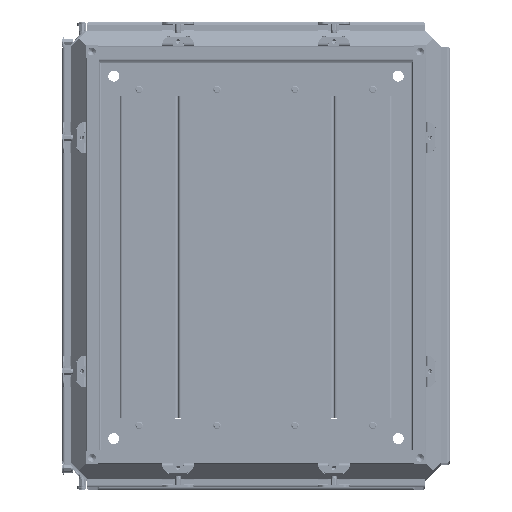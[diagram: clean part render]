
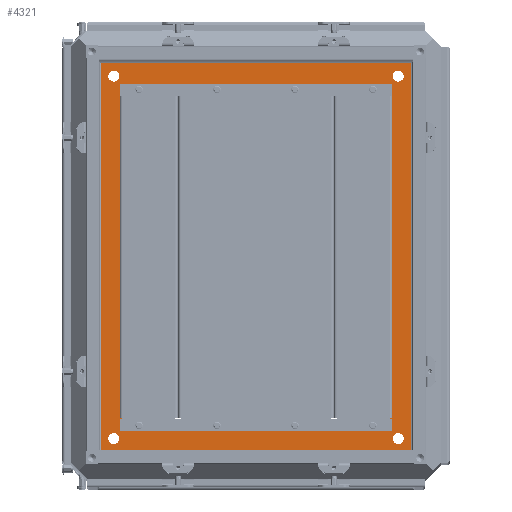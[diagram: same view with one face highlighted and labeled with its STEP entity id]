
A CAD part, top view. The second image highlights one B-rep face of the part: STEP entity #4321.
In plain terms, the highlighted planar face has unit normal (0, 0, 1).
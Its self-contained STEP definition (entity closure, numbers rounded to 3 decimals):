
#4321=ADVANCED_FACE('',(#16725,#16727,#16729,#16731,#16733,#16735),#16737,.F.);
#16725=FACE_BOUND('',#16726,.T.);
#16726=EDGE_LOOP('',(#111707,#111708,#111709,#111710));
#16727=FACE_BOUND('',#16728,.T.);
#16728=EDGE_LOOP('',(#111711,#111712,#111713,#111714));
#16729=FACE_BOUND('',#16730,.T.);
#16730=EDGE_LOOP('',(#111715));
#16731=FACE_BOUND('',#16732,.T.);
#16732=EDGE_LOOP('',(#111716));
#16733=FACE_BOUND('',#16734,.T.);
#16734=EDGE_LOOP('',(#111717));
#16735=FACE_BOUND('',#16736,.T.);
#16736=EDGE_LOOP('',(#111718));
#16737=PLANE('',#16738);
#16738=AXIS2_PLACEMENT_3D('',#16739,#16740,#16741);
#16739=CARTESIAN_POINT('',(0.,0.,-47.5));
#16740=DIRECTION('',(0.,0.,-1.));
#16741=DIRECTION('',(0.,1.,0.));
#111707=ORIENTED_EDGE('',*,*,#169409,.F.);
#111708=ORIENTED_EDGE('',*,*,#169410,.F.);
#111709=ORIENTED_EDGE('',*,*,#169411,.T.);
#111710=ORIENTED_EDGE('',*,*,#169412,.T.);
#111711=ORIENTED_EDGE('',*,*,#169413,.T.);
#111712=ORIENTED_EDGE('',*,*,#169414,.F.);
#111713=ORIENTED_EDGE('',*,*,#169415,.F.);
#111714=ORIENTED_EDGE('',*,*,#169416,.F.);
#111715=ORIENTED_EDGE('',*,*,#169417,.T.);
#111716=ORIENTED_EDGE('',*,*,#169418,.F.);
#111717=ORIENTED_EDGE('',*,*,#169419,.F.);
#111718=ORIENTED_EDGE('',*,*,#169420,.T.);
#169409=EDGE_CURVE('',#199152,#199153,#199154,.F.);
#169410=EDGE_CURVE('',#199155,#199152,#199156,.F.);
#169411=EDGE_CURVE('',#199155,#199157,#199158,.F.);
#169412=EDGE_CURVE('',#199157,#199153,#199159,.F.);
#169413=EDGE_CURVE('',#199160,#199161,#199162,.F.);
#169414=EDGE_CURVE('',#199163,#199161,#199164,.F.);
#169415=EDGE_CURVE('',#199165,#199163,#199166,.F.);
#169416=EDGE_CURVE('',#199160,#199165,#199167,.F.);
#169417=EDGE_CURVE('',#199168,#199168,#199169,.T.);
#169418=EDGE_CURVE('',#199170,#199170,#199171,.T.);
#169419=EDGE_CURVE('',#199172,#199172,#199173,.T.);
#169420=EDGE_CURVE('',#199174,#199174,#199175,.T.);
#199152=VERTEX_POINT('',#250973);
#199153=VERTEX_POINT('',#250974);
#199154=LINE('',#250975,#250976);
#199155=VERTEX_POINT('',#250978);
#199156=LINE('',#250979,#250980);
#199157=VERTEX_POINT('',#250982);
#199158=LINE('',#250983,#250984);
#199159=LINE('',#250986,#250987);
#199160=VERTEX_POINT('',#250989);
#199161=VERTEX_POINT('',#250990);
#199162=LINE('',#250991,#250992);
#199163=VERTEX_POINT('',#250994);
#199164=LINE('',#250995,#250996);
#199165=VERTEX_POINT('',#250998);
#199166=LINE('',#250999,#251000);
#199167=LINE('',#251002,#251003);
#199168=VERTEX_POINT('',#251005);
#199169=CIRCLE('',#251006,7.);
#199170=VERTEX_POINT('',#251010);
#199171=CIRCLE('',#251011,7.);
#199172=VERTEX_POINT('',#251015);
#199173=CIRCLE('',#251016,7.);
#199174=VERTEX_POINT('',#251020);
#199175=CIRCLE('',#251021,7.);
#250973=CARTESIAN_POINT('',(-1.6,1.6,-47.5));
#250974=CARTESIAN_POINT('',(-400.4,1.6,-47.5));
#250975=CARTESIAN_POINT('',(-400.4,1.6,-47.5));
#250976=VECTOR('',#250977,1.);
#250977=DIRECTION('',(1.,0.,0.));
#250978=CARTESIAN_POINT('',(-1.6,500.4,-47.5));
#250979=CARTESIAN_POINT('',(-1.6,1.6,-47.5));
#250980=VECTOR('',#250981,1.);
#250981=DIRECTION('',(0.,1.,0.));
#250982=CARTESIAN_POINT('',(-400.4,500.4,-47.5));
#250983=CARTESIAN_POINT('',(-400.4,500.4,-47.5));
#250984=VECTOR('',#250985,1.);
#250985=DIRECTION('',(1.,0.,0.));
#250986=CARTESIAN_POINT('',(-400.4,1.6,-47.5));
#250987=VECTOR('',#250988,1.);
#250988=DIRECTION('',(0.,1.,0.));
#250989=CARTESIAN_POINT('',(-39.4,39.4,-47.5));
#250990=CARTESIAN_POINT('',(-362.6,39.4,-47.5));
#250991=CARTESIAN_POINT('',(-362.6,39.4,-47.5));
#250992=VECTOR('',#250993,1.);
#250993=DIRECTION('',(1.,0.,0.));
#250994=CARTESIAN_POINT('',(-362.6,462.6,-47.5));
#250995=CARTESIAN_POINT('',(-362.6,39.4,-47.5));
#250996=VECTOR('',#250997,1.);
#250997=DIRECTION('',(0.,1.,0.));
#250998=CARTESIAN_POINT('',(-39.4,462.6,-47.5));
#250999=CARTESIAN_POINT('',(-362.6,462.6,-47.5));
#251000=VECTOR('',#251001,1.);
#251001=DIRECTION('',(1.,0.,0.));
#251002=CARTESIAN_POINT('',(-39.4,462.6,-47.5));
#251003=VECTOR('',#251004,1.);
#251004=DIRECTION('',(0.,-1.,0.));
#251005=CARTESIAN_POINT('',(-18.5,25.5,-47.5));
#251006=AXIS2_PLACEMENT_3D('',#251007,#251008,#251009);
#251007=CARTESIAN_POINT('',(-18.5,18.5,-47.5));
#251008=DIRECTION('',(0.,0.,-1.));
#251009=DIRECTION('',(0.,1.,0.));
#251010=CARTESIAN_POINT('',(-383.5,25.5,-47.5));
#251011=AXIS2_PLACEMENT_3D('',#251012,#251013,#251014);
#251012=CARTESIAN_POINT('',(-383.5,18.5,-47.5));
#251013=DIRECTION('',(0.,0.,1.));
#251014=DIRECTION('',(0.,1.,0.));
#251015=CARTESIAN_POINT('',(-18.5,476.5,-47.5));
#251016=AXIS2_PLACEMENT_3D('',#251017,#251018,#251019);
#251017=CARTESIAN_POINT('',(-18.5,483.5,-47.5));
#251018=DIRECTION('',(0.,0.,1.));
#251019=DIRECTION('',(0.,-1.,0.));
#251020=CARTESIAN_POINT('',(-383.5,476.5,-47.5));
#251021=AXIS2_PLACEMENT_3D('',#251022,#251023,#251024);
#251022=CARTESIAN_POINT('',(-383.5,483.5,-47.5));
#251023=DIRECTION('',(0.,0.,-1.));
#251024=DIRECTION('',(0.,-1.,0.));
